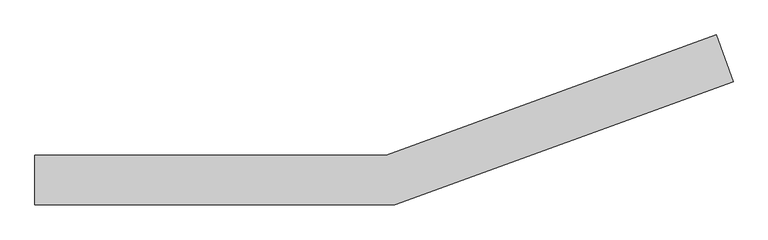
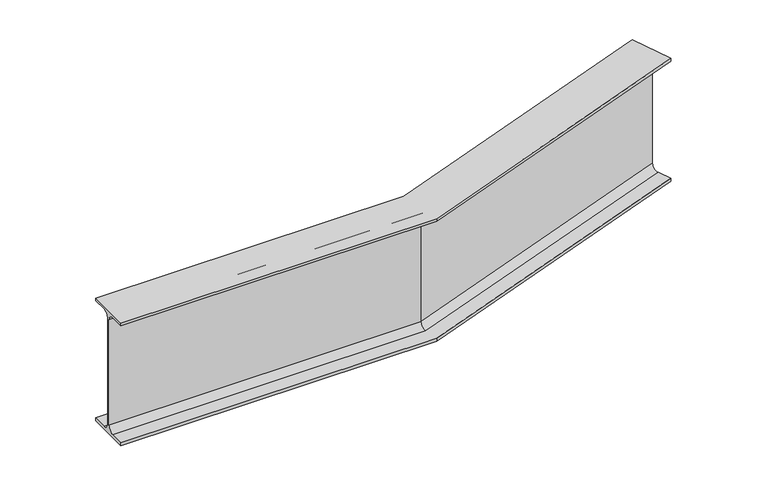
"""IFC4 building model written with IfcOpenShell, lengths in millimetres: beam geometry, Cranked Beam B1 : Cranked Beam B1."""

from ifc_helpers import new_model, si_unit, frame, origin, place, context, project, spatial, polyline, circle_curve, ellipse_curve, source, transform, mapped, element, save
from ifc_brep_helpers import plane_surface, revolved_surface, advanced_brep


def beam_8f258079(model_context):
    return source(origin(), model_context, "Body", "AdvancedBrep", [
        advanced_brep(
        [(30484.4500022, 15287.2000005, 3255.0), (30484.4500022, 15337.2000005, 3255.0), (30484.4500022, 15359.2000005, 3277.0), (30484.4500022, 15359.2000005, 3663.0), (30484.4500022, 15337.2000005, 3685.0), (30484.4500022, 15287.2000005, 3685.0), (30484.4500022, 15287.2000005, 3695.0), (30484.4500022, 15439.2000005, 3695.0), (30484.4500022, 15439.2000005, 3685.0), (30484.4500022, 15389.2000005, 3685.0), (30484.4500022, 15367.2000005, 3663.0), (30484.4500022, 15367.2000005, 3277.0), (30484.4500022, 15389.2000005, 3255.0), (30484.4500022, 15439.2000005, 3255.0), (30484.4500022, 15439.2000005, 3245.0), (30484.4500022, 15287.2000005, 3245.0), (31580.6961428, 15287.2000005, 3255.0), (32610.830551, 15662.1382623, 3255.0), (32593.7295439, 15709.1228934, 3255.0), (31571.8797938, 15337.2000005, 3255.0), (31568.0006002, 15359.2000005, 3277.0), (31568.0006002, 15359.2000005, 3663.0), (31571.8797938, 15337.2000005, 3685.0), (32593.7295439, 15709.1228934, 3685.0), (32610.830551, 15662.1382623, 3685.0), (31580.6961428, 15287.2000005, 3685.0), (31580.6961428, 15287.2000005, 3695.0), (32610.830551, 15662.1382623, 3695.0), (32558.8434892, 15804.9715407, 3695.0), (31553.8944418, 15439.2000005, 3695.0), (31553.8944418, 15439.2000005, 3685.0), (32558.8434892, 15804.9715407, 3685.0), (32575.9444964, 15757.9869096, 3685.0), (31562.7107908, 15389.2000005, 3685.0), (31566.5899844, 15367.2000005, 3663.0), (31566.5899844, 15367.2000005, 3277.0), (31562.7107908, 15389.2000005, 3255.0), (32575.9444964, 15757.9869096, 3255.0), (32558.8434892, 15804.9715407, 3255.0), (31553.8944418, 15439.2000005, 3255.0), (31553.8944418, 15439.2000005, 3245.0), (32558.8434892, 15804.9715407, 3245.0), (32610.830551, 15662.1382623, 3245.0), (31580.6961428, 15287.2000005, 3245.0), (32583.4689396, 15737.313672, 3277.0), (32583.4689396, 15737.313672, 3663.0), (32586.2051007, 15729.796131, 3663.0), (32586.2051007, 15729.796131, 3277.0)],
        [
            (0, 1),
            (1, 2, circle_curve(frame((30484.4500022, 15337.2000005, 3277.0), z_axis=(1.0, 0.0, 0.0), x_axis=(0.0, 1.0, 0.0)), 22.0)),
            (2, 3),
            (3, 4, circle_curve(frame((30484.4500022, 15337.2000005, 3663.0), z_axis=(1.0, 0.0, 0.0), x_axis=(0.0, 1.0, 0.0)), 22.0)),
            (4, 5),
            (5, 6),
            (6, 7),
            (7, 8),
            (8, 9),
            (9, 10, circle_curve(frame((30484.4500022, 15389.2000005, 3663.0), z_axis=(1.0, 0.0, 0.0), x_axis=(0.0, 1.0, 0.0)), 22.0)),
            (10, 11),
            (11, 12, circle_curve(frame((30484.4500022, 15389.2000005, 3277.0), z_axis=(1.0, 0.0, 0.0), x_axis=(0.0, 1.0, 0.0)), 22.0)),
            (12, 13),
            (13, 14),
            (14, 15),
            (15, 0),
            (0, 16),
            (16, 17),
            (17, 18),
            (18, 19),
            (19, 1),
            (19, 20, ellipse_curve(frame((31571.8797938, 15337.2000005, 3277.0), z_axis=(0.9848077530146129, 0.17364817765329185, 0.0), x_axis=(0.17364817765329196, -0.984807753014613, 0.0)), 22.3393855, 22.0)),
            (20, 2),
            (20, 21),
            (21, 3),
            (21, 22, ellipse_curve(frame((31571.8797938, 15337.2000005, 3663.0), z_axis=(0.9848077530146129, 0.17364817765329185, 0.0), x_axis=(0.17364817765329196, -0.984807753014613, 0.0)), 22.3393855, 22.0)),
            (22, 4),
            (22, 23),
            (23, 24),
            (24, 25),
            (25, 5),
            (25, 26),
            (26, 6),
            (26, 27),
            (27, 28),
            (28, 29),
            (29, 7),
            (29, 30),
            (30, 8),
            (30, 31),
            (31, 32),
            (32, 33),
            (33, 9),
            (33, 34, ellipse_curve(frame((31562.7107908, 15389.2000005, 3663.0), z_axis=(0.9848077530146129, 0.17364817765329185, 0.0), x_axis=(0.17364817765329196, -0.984807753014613, 0.0)), 22.3393855, 22.0)),
            (34, 10),
            (34, 35),
            (35, 11),
            (35, 36, ellipse_curve(frame((31562.7107908, 15389.2000005, 3277.0), z_axis=(0.9848077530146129, 0.17364817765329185, 0.0), x_axis=(0.17364817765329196, -0.984807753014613, 0.0)), 22.3393855, 22.0)),
            (36, 12),
            (36, 37),
            (37, 38),
            (38, 39),
            (39, 13),
            (39, 40),
            (40, 14),
            (40, 41),
            (41, 42),
            (42, 43),
            (43, 15),
            (43, 16),
            (17, 42),
            (41, 38),
            (37, 44, circle_curve(frame((32575.9444964, 15757.9869096, 3277.0), z_axis=(-0.9396926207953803, -0.34202014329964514, 0.0), x_axis=(-0.34202014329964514, 0.9396926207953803, 0.0)), 22.0)),
            (44, 45),
            (45, 32, circle_curve(frame((32575.9444964, 15757.9869096, 3663.0), z_axis=(-0.9396926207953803, -0.34202014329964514, 0.0), x_axis=(-0.34202014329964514, 0.9396926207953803, 0.0)), 22.0)),
            (31, 28),
            (27, 24),
            (23, 46, circle_curve(frame((32593.7295439, 15709.1228934, 3663.0), z_axis=(-0.9396926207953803, -0.34202014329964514, 0.0), x_axis=(-0.34202014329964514, 0.9396926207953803, 0.0)), 22.0)),
            (46, 47),
            (47, 18, circle_curve(frame((32593.7295439, 15709.1228934, 3277.0), z_axis=(-0.9396926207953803, -0.34202014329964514, 0.0), x_axis=(-0.34202014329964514, 0.9396926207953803, 0.0)), 22.0)),
            (47, 20),
            (46, 21),
            (45, 34),
            (44, 35),
        ],
        [
            plane_surface(frame((30484.4500022, 15363.2000005, 3695.0), z_axis=(-1.0, 0.0, 0.0), x_axis=(0.0, 0.0, 1.0))),
            plane_surface(frame((30484.4500022, 15287.2000005, 3255.0), z_axis=(0.0, 0.0, 1.0), x_axis=(1.0, 0.0, 0.0))),
            revolved_surface(polyline([(31575.758987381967, 15359.2000005, 3277.0), (30484.4500022, 15359.2000005, 3277.0)]), (30484.4500022, 15337.2000005, 3277.0), (1.0, 0.0, 0.0)),
            plane_surface(frame((30484.4500022, 15359.2000005, 3277.0), z_axis=(0.0, -1.0, 0.0), x_axis=(1.0, 0.0, 0.0))),
            revolved_surface(polyline([(31575.758987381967, 15359.2000005, 3663.0), (30484.4500022, 15359.2000005, 3663.0)]), (30484.4500022, 15337.2000005, 3663.0), (1.0, 0.0, 0.0)),
            plane_surface(frame((30484.4500022, 15337.2000005, 3685.0), z_axis=(0.0, 0.0, -1.0), x_axis=(1.0, 0.0, 0.0))),
            plane_surface(frame((30484.4500022, 15287.2000005, 3685.0), z_axis=(0.0, -1.0, 0.0), x_axis=(1.0, 0.0, 0.0))),
            plane_surface(frame((30484.4500022, 15287.2000005, 3695.0), z_axis=(0.0, 0.0, 1.0), x_axis=(1.0, 0.0, 0.0))),
            plane_surface(frame((30484.4500022, 15439.2000005, 3695.0), z_axis=(0.0, 1.0, 0.0), x_axis=(1.0, 0.0, 0.0))),
            plane_surface(frame((30484.4500022, 15439.2000005, 3685.0), z_axis=(0.0, 0.0, -1.0), x_axis=(1.0, 0.0, 0.0))),
            revolved_surface(polyline([(31566.5899844, 15411.2000005, 3663.0), (30484.4500022, 15411.2000005, 3663.0)]), (30484.4500022, 15389.2000005, 3663.0), (1.0, 0.0, 0.0)),
            plane_surface(frame((30484.4500022, 15367.2000005, 3663.0), z_axis=(0.0, 1.0, 0.0), x_axis=(1.0, 0.0, 0.0))),
            revolved_surface(polyline([(31566.5899844, 15411.2000005, 3277.0), (30484.4500022, 15411.2000005, 3277.0)]), (30484.4500022, 15389.2000005, 3277.0), (1.0, 0.0, 0.0)),
            plane_surface(frame((30484.4500022, 15389.2000005, 3255.0), z_axis=(0.0, 0.0, 1.0), x_axis=(1.0, 0.0, 0.0))),
            plane_surface(frame((30484.4500022, 15439.2000005, 3255.0), z_axis=(0.0, 1.0, 0.0), x_axis=(1.0, 0.0, 0.0))),
            plane_surface(frame((30484.4500022, 15439.2000005, 3245.0), z_axis=(0.0, 0.0, -1.0), x_axis=(1.0, 0.0, 0.0))),
            plane_surface(frame((30484.4500022, 15287.2000005, 3245.0), z_axis=(0.0, -1.0, 0.0), x_axis=(1.0, 0.0, 0.0))),
            plane_surface(frame((32584.8370201, 15733.5549015, 3695.0), z_axis=(0.9396926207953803, 0.34202014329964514, 0.0), x_axis=(0.0, 0.0, 1.0))),
            revolved_surface(polyline([(32586.205100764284, 15729.796131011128, 3277.0), (31560.710101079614, 15356.54647576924, 3277.0)]), (31576.187816, 15338.7679923, 3277.0), (0.9396926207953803, 0.34202014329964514, 0.0)),
            plane_surface(frame((31568.0006002, 15359.2000005, 3277.0), z_axis=(0.342020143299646, -0.9396926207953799, 0.0), x_axis=(0.9396926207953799, 0.342020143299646, 0.0))),
            revolved_surface(polyline([(32586.205100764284, 15729.796131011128, 3663.0), (31560.710101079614, 15356.54647576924, 3663.0)]), (31576.187816, 15338.7679923, 3663.0), (0.9396926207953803, 0.34202014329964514, 0.0)),
            plane_surface(frame((31580.6961428, 15287.2000005, 3685.0), z_axis=(0.3420201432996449, -0.9396926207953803, 0.0), x_axis=(0.9396926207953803, 0.3420201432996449, 0.0))),
            plane_surface(frame((31553.8944418, 15439.2000005, 3695.0), z_axis=(-0.3420201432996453, 0.9396926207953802, 0.0), x_axis=(0.9396926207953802, 0.3420201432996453, 0.0))),
            revolved_surface(polyline([(32568.420053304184, 15778.660147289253, 3663.0), (31551.541098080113, 15408.546475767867, 3663.0)]), (31558.4027686, 15387.6320086, 3663.0), (0.9396926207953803, 0.34202014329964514, 0.0)),
            plane_surface(frame((31566.5899844, 15367.2000005, 3663.0), z_axis=(-0.3420201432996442, 0.9396926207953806, 0.0), x_axis=(0.9396926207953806, 0.3420201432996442, 0.0))),
            revolved_surface(polyline([(32568.420053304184, 15778.660147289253, 3277.0), (31551.541098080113, 15408.546475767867, 3277.0)]), (31558.4027686, 15387.6320086, 3277.0), (0.9396926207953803, 0.34202014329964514, 0.0)),
            plane_surface(frame((31553.8944418, 15439.2000005, 3255.0), z_axis=(-0.3420201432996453, 0.9396926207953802, 0.0), x_axis=(0.9396926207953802, 0.3420201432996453, 0.0))),
            plane_surface(frame((31580.6961428, 15287.2000005, 3245.0), z_axis=(0.3420201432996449, -0.9396926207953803, 0.0), x_axis=(0.9396926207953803, 0.3420201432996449, 0.0))),
        ],
        [
            (0, [[1, 2, 3, 4, 5, 6, 7, 8, 9, 10, 11, 12, 13, 14, 15, 16]]),
            (1, [[-1, 17, 18, 19, 20, 21]]),
            (2, [[-2, -21, 22, 23]]),
            (3, [[-3, -23, 24, 25]]),
            (4, [[-4, -25, 26, 27]]),
            (5, [[-5, -27, 28, 29, 30, 31]]),
            (6, [[-6, -31, 32, 33]]),
            (7, [[-7, -33, 34, 35, 36, 37]]),
            (8, [[-8, -37, 38, 39]]),
            (9, [[-9, -39, 40, 41, 42, 43]]),
            (10, [[-10, -43, 44, 45]]),
            (11, [[-11, -45, 46, 47]]),
            (12, [[-12, -47, 48, 49]]),
            (13, [[-13, -49, 50, 51, 52, 53]]),
            (14, [[-14, -53, 54, 55]]),
            (15, [[-15, -55, 56, 57, 58, 59]]),
            (16, [[-16, -59, 60, -17]]),
            (17, [[61, -57, 62, -51, 63, 64, 65, -41, 66, -35, 67, -29, 68, 69, 70, -19]]),
            (18, [[-22, -20, -70, 71]]),
            (19, [[-24, -71, -69, 72]]),
            (20, [[-26, -72, -68, -28]]),
            (21, [[-32, -30, -67, -34]]),
            (22, [[-38, -36, -66, -40]]),
            (23, [[-44, -42, -65, 73]]),
            (24, [[-46, -73, -64, 74]]),
            (25, [[-48, -74, -63, -50]]),
            (26, [[-54, -52, -62, -56]]),
            (27, [[-60, -58, -61, -18]]),
        ],
    ),
    ])


if __name__ == "__main__":
    model = new_model("IFC4")
    model_context = context("Model", 3, world=origin())
    ifc_project = project(units=[si_unit("LENGTHUNIT", "METRE", prefix="MILLI")], contexts=[model_context])
    site = spatial("IfcSite", under=ifc_project)
    building = spatial("IfcBuilding", under=site)
    placement = place(None, origin())
    beam_shape = beam_8f258079(model_context)
    element("IfcBeam", 1, ObjectType="Cranked Beam B1 : Cranked Beam B1", at=placement, inside=building, context=model_context, shape_type="MappedRepresentation", body=[
        mapped(beam_shape, transform((0.0, 0.0, 0.0), x_axis=(1.0, 0.0, 0.0), y_axis=(0.0, 1.0, 0.0), z_axis=(0.0, 0.0, 1.0))),
    ])
    save(model, "model.ifc")
